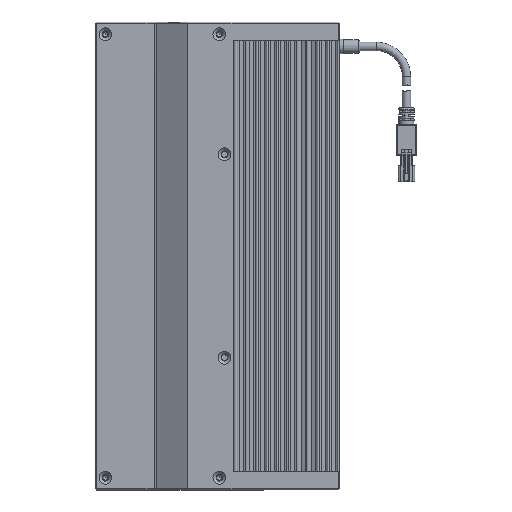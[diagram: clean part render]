
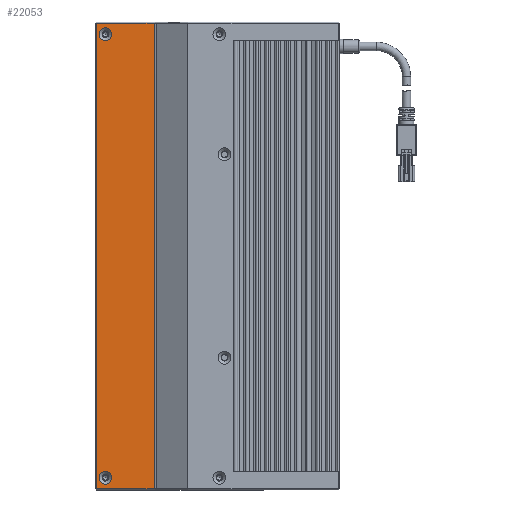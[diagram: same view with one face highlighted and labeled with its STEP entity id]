
A CAD part, left-side view. The second image highlights one B-rep face of the part: STEP entity #22053.
In plain terms, the highlighted planar face has unit normal (-1, 0, 0).
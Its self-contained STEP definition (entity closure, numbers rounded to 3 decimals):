
#100 = AXIS2_PLACEMENT_3D ( 'NONE', #9649, #17292, #1719 ) ;
#247 = CIRCLE ( 'NONE', #21844, 3.15 ) ;
#762 = CARTESIAN_POINT ( 'NONE',  ( -15.462, -6.987, 349. ) ) ;
#1719 = DIRECTION ( 'NONE',  ( 0., 0., 1. ) ) ;
#3326 = DIRECTION ( 'NONE',  ( 0., 0., 1. ) ) ;
#4989 = VERTEX_POINT ( 'NONE', #27688 ) ;
#5368 = VECTOR ( 'NONE', #25068, 1000. ) ;
#6000 = EDGE_CURVE ( 'NONE', #22915, #4989, #30421, .T. ) ;
#7139 = EDGE_CURVE ( 'NONE', #12654, #22915, #17007, .T. ) ;
#8703 = FACE_BOUND ( 'NONE', #26999, .T. ) ;
#9620 = CARTESIAN_POINT ( 'NONE',  ( -15.462, -6.987, 347.5 ) ) ;
#9649 = CARTESIAN_POINT ( 'NONE',  ( -15.462, 16.939, 343.5 ) ) ;
#10328 = LINE ( 'NONE', #31702, #24472 ) ;
#11346 = CARTESIAN_POINT ( 'NONE',  ( -15.462, 16.939, 125.5 ) ) ;
#11891 = DIRECTION ( 'NONE',  ( 0., 0., -1. ) ) ;
#12322 = FACE_OUTER_BOUND ( 'NONE', #22718, .T. ) ;
#12647 = CARTESIAN_POINT ( 'NONE',  ( -15.462, 21.439, 120. ) ) ;
#12654 = VERTEX_POINT ( 'NONE', #27587 ) ;
#12853 = ORIENTED_EDGE ( 'NONE', *, *, #6000, .F. ) ;
#13124 = CARTESIAN_POINT ( 'NONE',  ( -15.462, -7.561, 349. ) ) ;
#13127 = ORIENTED_EDGE ( 'NONE', *, *, #25268, .F. ) ;
#13180 = EDGE_LOOP ( 'NONE', ( #16030 ) ) ;
#13460 = DIRECTION ( 'NONE',  ( 0., -1., 0. ) ) ;
#14242 = CARTESIAN_POINT ( 'NONE',  ( -15.462, -7.561, 347.5 ) ) ;
#15221 = EDGE_CURVE ( 'NONE', #26899, #12654, #10328, .T. ) ;
#15593 = ORIENTED_EDGE ( 'NONE', *, *, #15221, .F. ) ;
#15813 = AXIS2_PLACEMENT_3D ( 'NONE', #14242, #24757, #11891 ) ;
#16030 = ORIENTED_EDGE ( 'NONE', *, *, #21186, .F. ) ;
#16486 = CARTESIAN_POINT ( 'NONE',  ( -15.462, 16.939, 128.65 ) ) ;
#17007 = LINE ( 'NONE', #13124, #23467 ) ;
#17292 = DIRECTION ( 'NONE',  ( -1., 0., 0. ) ) ;
#20402 = FACE_BOUND ( 'NONE', #13180, .T. ) ;
#20753 = EDGE_CURVE ( 'NONE', #4989, #26899, #30625, .T. ) ;
#21186 = EDGE_CURVE ( 'NONE', #27397, #27397, #247, .T. ) ;
#21695 = VERTEX_POINT ( 'NONE', #27068 ) ;
#21844 = AXIS2_PLACEMENT_3D ( 'NONE', #11346, #24093, #3326 ) ;
#22053 = ADVANCED_FACE ( 'NONE', ( #20402, #8703, #12322 ), #22238, .F. ) ;
#22238 = PLANE ( 'NONE',  #15813 ) ;
#22718 = EDGE_LOOP ( 'NONE', ( #15593, #25059, #12853, #30176 ) ) ;
#22915 = VERTEX_POINT ( 'NONE', #762 ) ;
#23467 = VECTOR ( 'NONE', #13460, 1000. ) ;
#23598 = DIRECTION ( 'NONE',  ( 0., 0., 1. ) ) ;
#24093 = DIRECTION ( 'NONE',  ( -1., 0., 0. ) ) ;
#24472 = VECTOR ( 'NONE', #23598, 1000. ) ;
#24565 = VECTOR ( 'NONE', #27279, 1000. ) ;
#24685 = CARTESIAN_POINT ( 'NONE',  ( -15.462, -7.561, 120. ) ) ;
#24757 = DIRECTION ( 'NONE',  ( 1., 0., 0. ) ) ;
#25059 = ORIENTED_EDGE ( 'NONE', *, *, #20753, .F. ) ;
#25068 = DIRECTION ( 'NONE',  ( 0., 0., -1. ) ) ;
#25268 = EDGE_CURVE ( 'NONE', #21695, #21695, #30298, .T. ) ;
#26899 = VERTEX_POINT ( 'NONE', #12647 ) ;
#26999 = EDGE_LOOP ( 'NONE', ( #13127 ) ) ;
#27068 = CARTESIAN_POINT ( 'NONE',  ( -15.462, 16.939, 346.65 ) ) ;
#27279 = DIRECTION ( 'NONE',  ( 0., 1., 0. ) ) ;
#27397 = VERTEX_POINT ( 'NONE', #16486 ) ;
#27587 = CARTESIAN_POINT ( 'NONE',  ( -15.462, 21.439, 349. ) ) ;
#27688 = CARTESIAN_POINT ( 'NONE',  ( -15.462, -6.987, 120. ) ) ;
#30176 = ORIENTED_EDGE ( 'NONE', *, *, #7139, .F. ) ;
#30298 = CIRCLE ( 'NONE', #100, 3.15 ) ;
#30421 = LINE ( 'NONE', #9620, #5368 ) ;
#30625 = LINE ( 'NONE', #24685, #24565 ) ;
#31702 = CARTESIAN_POINT ( 'NONE',  ( -15.462, 21.439, 347.5 ) ) ;
